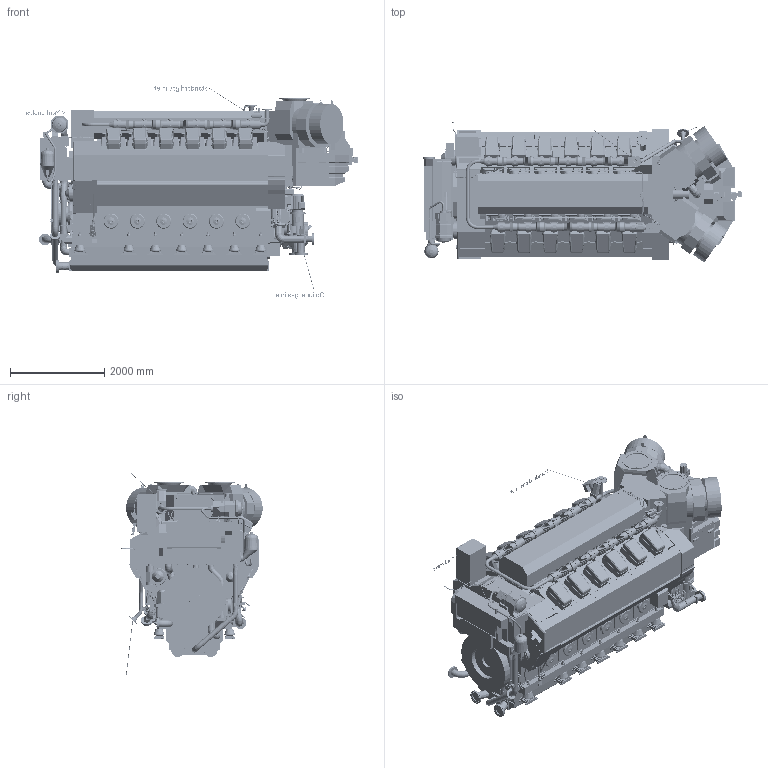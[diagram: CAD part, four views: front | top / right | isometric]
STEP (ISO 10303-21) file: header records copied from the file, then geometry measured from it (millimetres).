
FILE_DESCRIPTION(/* description */ (''),/* implementation_level */ '2;1');
FILE_NAME(/* name */ 'DAAF379551_B.stp',/* time_stamp */ '2021-12-13T11:01:24+02:00',/* author */ (''),/* organization */ (''),/* preprocessor_version */ 'ST-DEVELOPER v16.7',/* originating_system */ 'SIEMENS PLM Software NX 1915',/* authorisation */ '');
FILE_SCHEMA (('AUTOMOTIVE_DESIGN { 1 0 10303 214 3 1 1 1 }'));
Products named in the file (88): 001620194_-; 001240134_-; 001240134_A; PAAF523057_-; PAAF702810_-; PABA065852_-; PABA324496_-; PABA089687_-; PAAF087138_-; PAAF074479_-; PAAF090577_-; PAAF087154_-; PABA036926_-; PAAF063634_-; PAAF238216_-; PABA034962_-; PAAF295070_-; PABA001563_-; PABA052452_-; PABA052478_-; PABA052425_-; PABA053684_-; PAAF243684_-; PAAF074389_-; PAAF852803_-; PAAF304653_-; PAAF087001_-; PAAF243666_-; PAAF565855_-; PAAF078239_-; PAAF991059_-; PAAF078077_-; PAAF087123_-; PAAF247464_-; PAAF087117_-; PAAF087083_-; PAAF087113_-; PABA076699_-; PAAF245056_-; PAAF243370_-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
Assembly tree (153 placements, depth 4):
  PABA274594_-
    PABA274578_-
      PABA274494_-
      PAAF695508_-
      PABA053131_-
      PABA002081_-
      PAAF243367_-
      PAAF066761_-
      PAAF688045_-
      PAAF688053_-
      PABA173946_-
      PABA156629_-
      PABA068010_-
      PABA067993_-
      PAAF074393_-
      PAAF078522_-
      PABA001772_-
      PABA002426_-
      PAAF078708_-
      PAAF688051_-
      PABA041040_-
      PAAF243373_-
      PAAF689738_-
      PAAF211478_-
      PAAF427671_-
      PAAF450547_-
      PAAF695507_-
      PABA033164_-
      PAAF066738_-
      PAAF093834_-
      PAAF078635_-
      PAAF077590_-
      PAAF078607_-
      PAAF078553_-
      PAAF077589_-
      PAAF688036_-
      PAAF220774_-
      PAAF221638_-
      PAAF166694_-
      PAAF078536_-
      PAAF074410_-  x2
      PAAF078535_-
      PAAF990034_-
      PAAF087128_-
      PAAF243370_-
      PAAF245056_-
      PABA076699_-
      PAAF087113_-
      PAAF087083_-
      PAAF087117_-
      PAAF247464_-
      PAAF087123_-
      PAAF078077_-
      PAAF991059_-
      PAAF078239_-
      PAAF565855_-
      PAAF243666_-
      PAAF087001_-
      PAAF304653_-
      PAAF852803_-
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Bounding box: 7054.84 x 3000.14 x 4527 mm (x, y, z)
Volume: 26456299575.9 mm3; surface area: 342081011 mm2
Topology: 531 solids, 659 shells, 19344 faces, 46873 edges, 30020 vertices
Faces by surface type: plane 10353, cylinder 4987, bspline 2303, torus 749, extrusion 473, cone 464, revolution 9, sphere 6
Full cylindrical faces by diameter (mm): 0.107 x1, 3.3 x12, 6 x14, 6.2 x112, 8 x37, 8.5 x1, 8.993 x3, 9 x19, 9.685 x1, 9.69 x1, 10 x21, 11 x19, 11.908 x1, 11.995 x1, 12 x108, 12.6 x2, 13.2 x4, 13.5 x5, 13.6 x2, 14 x63, 14.596 x1, 15 x59, 15.5 x4, 15.6 x1, 15.7 x4, 16 x19, 16.376 x1, 16.658 x1, 17 x2, 17.5 x116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
Entity records: 638482 total; most frequent: CARTESIAN_POINT 239024, DIRECTION 78236, ORIENTED_EDGE 77940, EDGE_CURVE 38970, AXIS2_PLACEMENT_3D 27831, VERTEX_POINT 26322, EDGE_LOOP 22891, VECTOR 22565
